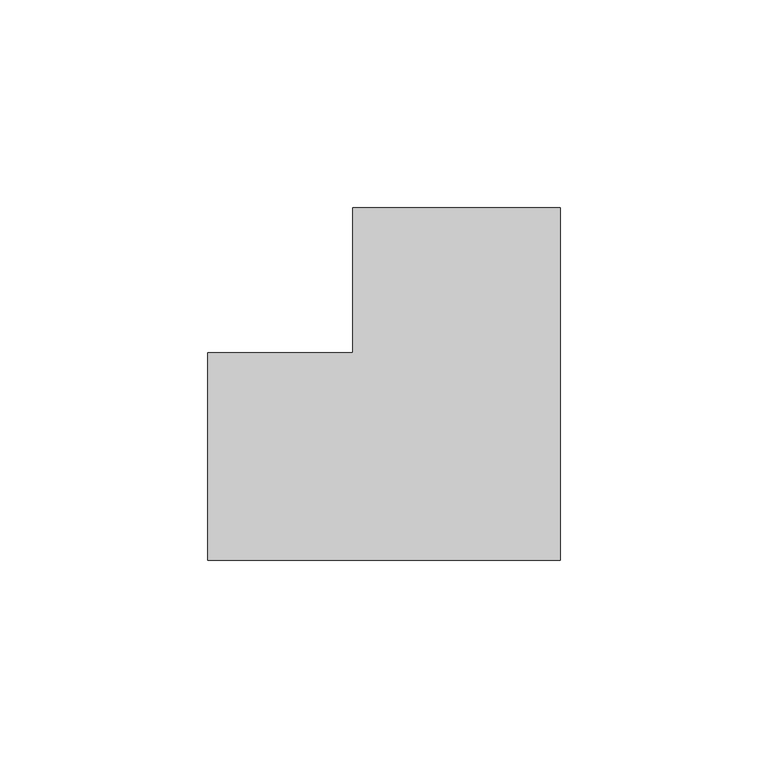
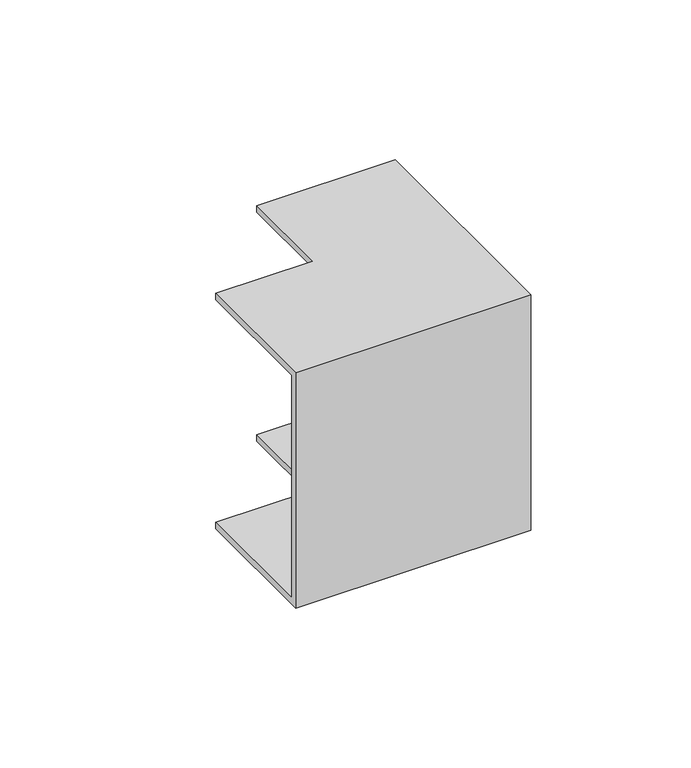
"""IFC4 building model written with IfcOpenShell, lengths in millimetres: cable carrier fitting geometry, КНС_УголВнутренний_ILF_DKC : Белый."""

from ifc_helpers import new_model, si_unit, origin, place, context, project, spatial, faceted_brep, source, transform, mapped, element, save


def cable_carrier_fitting_e92eef1a(model_context):
    return source(origin(), model_context, "Body", "Brep", [
        faceted_brep([(-60.0, -25.0, 45.0), (-60.0, 25.0, 45.0), (-60.0, 25.0, 42.5), (-60.0, -22.5, 42.5), (-60.0, -22.5, -42.5), (-60.0, 25.0, -42.5), (-60.0, 25.0, -45.0), (-60.0, -25.0, -45.0), (25.0, 60.0, 45.0), (25.0, 60.0, -45.0), (-25.0, 60.0, -45.0), (-25.0, 60.0, -42.5), (22.5, 60.0, -42.5), (22.5, 60.0, 42.5), (-25.0, 60.0, 42.5), (-25.0, 60.0, 45.0), (25.0, -25.0, 45.0), (-25.0, 25.0, 45.0), (-25.0, 25.0, 42.5), (22.5, -22.5, 42.5), (22.5, -22.5, -42.5), (-25.0, 25.0, -42.5), (-25.0, 25.0, -45.0), (25.0, -25.0, -45.0)], [[[0, 1, 2, 3, 4, 5, 6, 7]], [[8, 9, 10, 11, 12, 13, 14, 15]], [[1, 0, 16, 8, 15, 17]], [[2, 1, 17, 18]], [[3, 2, 18, 14, 13, 19]], [[4, 3, 19, 20]], [[5, 4, 20, 12, 11, 21]], [[6, 5, 21, 22]], [[7, 6, 22, 10, 9, 23]], [[0, 7, 23, 16]], [[18, 17, 15, 14]], [[20, 19, 13, 12]], [[22, 21, 11, 10]], [[16, 23, 9, 8]]]),
    ])


if __name__ == "__main__":
    model = new_model("IFC4")
    model_context = context("Model", 3, world=origin())
    ifc_project = project(units=[si_unit("LENGTHUNIT", "METRE", prefix="MILLI")], contexts=[model_context])
    site = spatial("IfcSite", under=ifc_project)
    building = spatial("IfcBuilding", under=site)
    placement = place(None, origin())
    cable_carrier_fitting_shape = cable_carrier_fitting_e92eef1a(model_context)
    element("IfcCableCarrierFitting", 1, ObjectType="КНС_УголВнутренний_ILF_DKC : Белый", at=placement, inside=building, context=model_context, shape_type="MappedRepresentation", body=[
        mapped(cable_carrier_fitting_shape, transform((0.0, 0.0, 0.0), x_axis=(1.0, 0.0, 0.0), y_axis=(0.0, 1.0, 0.0), z_axis=(0.0, 0.0, 1.0))),
    ])
    save(model, "model.ifc")
